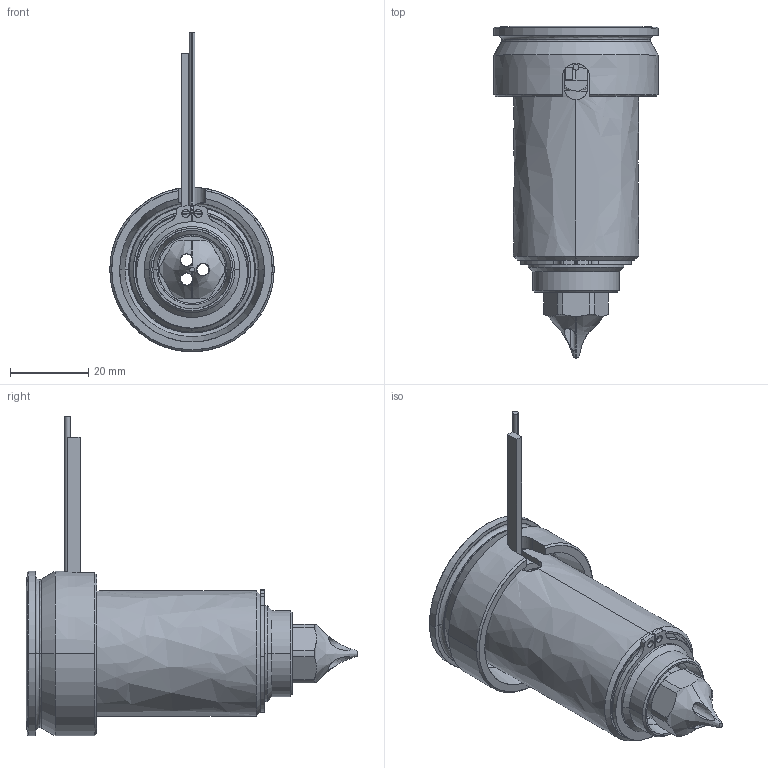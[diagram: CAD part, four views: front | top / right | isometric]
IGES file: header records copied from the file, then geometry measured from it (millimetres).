
Start section: SolidWorks IGES file using analytic representation for surfaces
Global section: file name: C:\Users\luca.EMPAD\Desktop\TEM\UGDL3612-M-A-1 [Øf=1.3 ØC=09].IGS; native system: SolidWorks 2012; preprocessor: SolidWorks 2012; author: luca; date: 120330.155713; units: millimetre
Bounding box: 42 x 84.8 x 81.65 mm (x, y, z)
Surface area: 27231.2 mm2 (no closed solid volume)
Topology: 0 solids, 0 shells, 129 faces, 2328 edges, 2328 vertices
Faces by surface type: revolution 79, bspline 50
